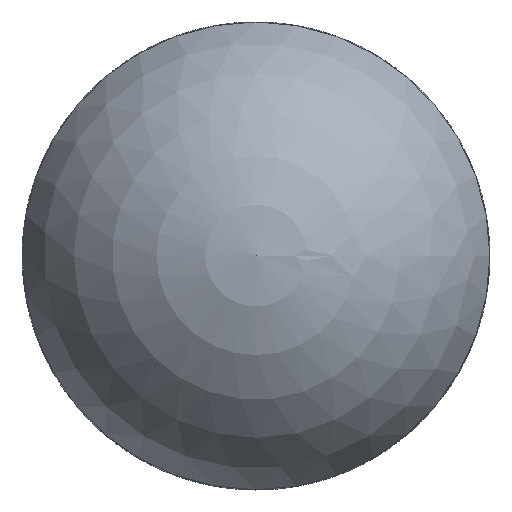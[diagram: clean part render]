
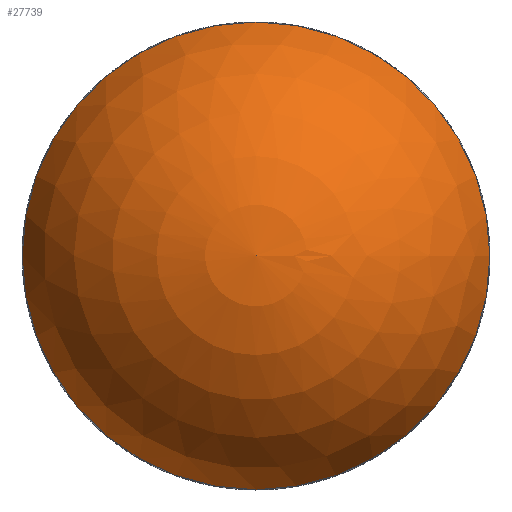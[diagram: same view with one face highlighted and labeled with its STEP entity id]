
A CAD part, top view. The second image highlights one B-rep face of the part: STEP entity #27739.
In plain terms, the highlighted spherical face has radius 10 mm.
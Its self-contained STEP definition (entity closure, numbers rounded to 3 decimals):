
#522 = CYLINDRICAL_SURFACE('',#523,9.474);
#523 = AXIS2_PLACEMENT_3D('',#524,#525,#526);
#524 = CARTESIAN_POINT('',(0.,0.,-1.));
#525 = DIRECTION('',(0.,0.,1.));
#526 = DIRECTION('',(1.,0.,-0.));
#574 = VERTEX_POINT('',#575);
#575 = CARTESIAN_POINT('',(9.474,0.,
    11.86));
#596 = EDGE_CURVE('',#574,#574,#597,.T.);
#597 = SURFACE_CURVE('',#598,(#603,#610),.PCURVE_S1.);
#598 = CIRCLE('',#599,9.474);
#599 = AXIS2_PLACEMENT_3D('',#600,#601,#602);
#600 = CARTESIAN_POINT('',(0.,0.,11.86));
#601 = DIRECTION('',(0.,0.,1.));
#602 = DIRECTION('',(0.,-1.,0.));
#603 = PCURVE('',#522,#604);
#604 = DEFINITIONAL_REPRESENTATION('',(#605),#609);
#605 = LINE('',#606,#607);
#606 = CARTESIAN_POINT('',(-1.571,12.86));
#607 = VECTOR('',#608,1.);
#608 = DIRECTION('',(1.,0.));
#609 = ( GEOMETRIC_REPRESENTATION_CONTEXT(2) 
PARAMETRIC_REPRESENTATION_CONTEXT() REPRESENTATION_CONTEXT('2D SPACE',''
  ) );
#610 = PCURVE('',#611,#616);
#611 = SPHERICAL_SURFACE('',#612,10.);
#612 = AXIS2_PLACEMENT_3D('',#613,#614,#615);
#613 = CARTESIAN_POINT('',(0.,0.,8.66));
#614 = DIRECTION('',(0.,0.,1.));
#615 = DIRECTION('',(1.,0.,-0.));
#616 = DEFINITIONAL_REPRESENTATION('',(#617),#621);
#617 = LINE('',#618,#619);
#618 = CARTESIAN_POINT('',(-1.571,0.326));
#619 = VECTOR('',#620,1.);
#620 = DIRECTION('',(1.,0.));
#621 = ( GEOMETRIC_REPRESENTATION_CONTEXT(2) 
PARAMETRIC_REPRESENTATION_CONTEXT() REPRESENTATION_CONTEXT('2D SPACE',''
  ) );
#27739 = ADVANCED_FACE('',(#27740),#611,.T.);
#27740 = FACE_BOUND('',#27741,.T.);
#27741 = EDGE_LOOP('',(#27742,#27743,#27767));
#27742 = ORIENTED_EDGE('',*,*,#596,.T.);
#27743 = ORIENTED_EDGE('',*,*,#27744,.T.);
#27744 = EDGE_CURVE('',#574,#27745,#27747,.T.);
#27745 = VERTEX_POINT('',#27746);
#27746 = CARTESIAN_POINT('',(0.,0.,
    18.66));
#27747 = SEAM_CURVE('',#27748,(#27753,#27760),.PCURVE_S1.);
#27748 = CIRCLE('',#27749,10.);
#27749 = AXIS2_PLACEMENT_3D('',#27750,#27751,#27752);
#27750 = CARTESIAN_POINT('',(0.,0.,8.66));
#27751 = DIRECTION('',(0.,-1.,0.));
#27752 = DIRECTION('',(1.,0.,0.));
#27753 = PCURVE('',#611,#27754);
#27754 = DEFINITIONAL_REPRESENTATION('',(#27755),#27759);
#27755 = LINE('',#27756,#27757);
#27756 = CARTESIAN_POINT('',(0.,-6.283));
#27757 = VECTOR('',#27758,1.);
#27758 = DIRECTION('',(0.,1.));
#27759 = ( GEOMETRIC_REPRESENTATION_CONTEXT(2) 
PARAMETRIC_REPRESENTATION_CONTEXT() REPRESENTATION_CONTEXT('2D SPACE',''
  ) );
#27760 = PCURVE('',#611,#27761);
#27761 = DEFINITIONAL_REPRESENTATION('',(#27762),#27766);
#27762 = LINE('',#27763,#27764);
#27763 = CARTESIAN_POINT('',(6.283,-6.283));
#27764 = VECTOR('',#27765,1.);
#27765 = DIRECTION('',(0.,1.));
#27766 = ( GEOMETRIC_REPRESENTATION_CONTEXT(2) 
PARAMETRIC_REPRESENTATION_CONTEXT() REPRESENTATION_CONTEXT('2D SPACE',''
  ) );
#27767 = ORIENTED_EDGE('',*,*,#27744,.F.);
